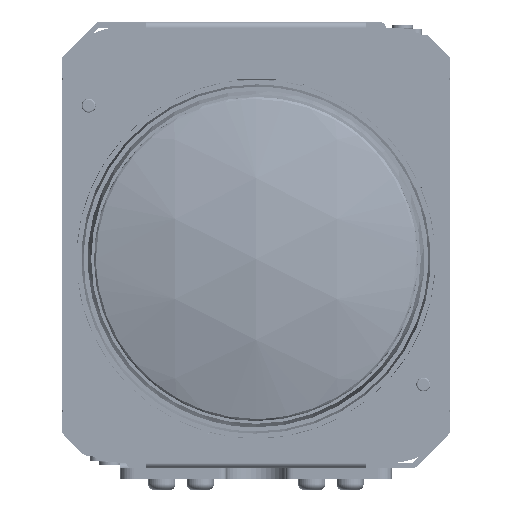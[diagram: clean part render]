
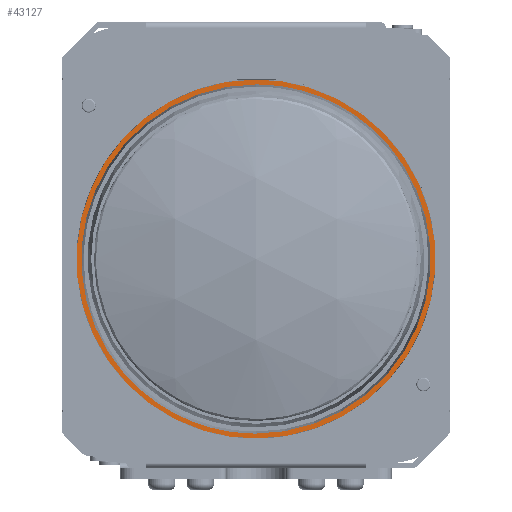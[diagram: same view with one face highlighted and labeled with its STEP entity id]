
A CAD part, left-side view. The second image highlights one B-rep face of the part: STEP entity #43127.
In plain terms, the highlighted planar face has unit normal (-1, 0, 0).
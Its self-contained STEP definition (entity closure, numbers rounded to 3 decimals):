
#43127 = ADVANCED_FACE( '', ( #86649, #86650 ), #86651, .T. );
#86649 = FACE_BOUND( '', #138583, .T. );
#86650 = FACE_OUTER_BOUND( '', #138584, .T. );
#86651 = PLANE( '', #138585 );
#138583 = EDGE_LOOP( '', ( #209256, #209257 ) );
#138584 = EDGE_LOOP( '', ( #209258, #209259 ) );
#138585 = AXIS2_PLACEMENT_3D( '', #209260, #209261, #209262 );
#209256 = ORIENTED_EDGE( '', *, *, #314277, .F. );
#209257 = ORIENTED_EDGE( '', *, *, #314278, .F. );
#209258 = ORIENTED_EDGE( '', *, *, #314279, .T. );
#209259 = ORIENTED_EDGE( '', *, *, #314280, .T. );
#209260 = CARTESIAN_POINT( '', ( -117.5, -26.78, -26.798 ) );
#209261 = DIRECTION( '', ( -1., 0., 0. ) );
#209262 = DIRECTION( '', ( 0., 0., 1. ) );
#314277 = EDGE_CURVE( '', #368505, #368506, #368507, .T. );
#314278 = EDGE_CURVE( '', #368506, #368505, #368508, .T. );
#314279 = EDGE_CURVE( '', #368509, #368510, #368511, .T. );
#314280 = EDGE_CURVE( '', #368510, #368509, #368512, .T. );
#368505 = VERTEX_POINT( '', #449618 );
#368506 = VERTEX_POINT( '', #449619 );
#368507 = ( BOUNDED_CURVE(  )B_SPLINE_CURVE( 3, ( #449622, #449623, #449624, #449625 ), .UNSPECIFIED., .F., .F. )B_SPLINE_CURVE_WITH_KNOTS( ( 4, 4 ), ( 0., 1. ), .UNSPECIFIED. )CURVE(  )GEOMETRIC_REPRESENTATION_ITEM(  )RATIONAL_B_SPLINE_CURVE( ( 1., 0.333, 0.333, 1. ) )REPRESENTATION_ITEM( '' ) );
#368508 = ( BOUNDED_CURVE(  )B_SPLINE_CURVE( 3, ( #449633, #449634, #449635, #449636 ), .UNSPECIFIED., .F., .F. )B_SPLINE_CURVE_WITH_KNOTS( ( 4, 4 ), ( 0., 1. ), .UNSPECIFIED. )CURVE(  )GEOMETRIC_REPRESENTATION_ITEM(  )RATIONAL_B_SPLINE_CURVE( ( 1., 0.333, 0.333, 1. ) )REPRESENTATION_ITEM( '' ) );
#368509 = VERTEX_POINT( '', #449642 );
#368510 = VERTEX_POINT( '', #449643 );
#368511 = B_SPLINE_CURVE_WITH_KNOTS( '', 2, ( #449644, #449645, #449646, #449647, #449648, #449649, #449650, #449651, #449652, #449653, #449654, #449655, #449656, #449657, #449658, #449659, #449660, #449661, #449662, #449663, #449664, #449665, #449666, #449667, #449668, #449669, #449670, #449671, #449672, #449673, #449674, #449675, #449676 ), .UNSPECIFIED., .F., .F., ( 3, 2, 2, 2, 2, 2, 2, 2, 2, 2, 2, 2, 2, 2, 2, 2, 3 ), ( 0., 0.063, 0.125, 0.188, 0.25, 0.313, 0.375, 0.438, 0.5, 0.563, 0.625, 0.688, 0.75, 0.813, 0.875, 0.938, 1. ), .UNSPECIFIED. );
#368512 = B_SPLINE_CURVE_WITH_KNOTS( '', 2, ( #449677, #449678, #449679, #449680, #449681, #449682, #449683, #449684, #449685, #449686, #449687, #449688, #449689, #449690, #449691, #449692, #449693, #449694, #449695, #449696, #449697, #449698, #449699, #449700, #449701, #449702, #449703, #449704, #449705, #449706, #449707, #449708, #449709 ), .UNSPECIFIED., .F., .F., ( 3, 2, 2, 2, 2, 2, 2, 2, 2, 2, 2, 2, 2, 2, 2, 2, 3 ), ( 0., 0.063, 0.125, 0.188, 0.25, 0.313, 0.375, 0.438, 0.5, 0.563, 0.625, 0.688, 0.75, 0.813, 0.875, 0.938, 1. ), .UNSPECIFIED. );
#449618 = CARTESIAN_POINT( '', ( -117.5, -25.05, 0. ) );
#449619 = CARTESIAN_POINT( '', ( -117.5, 25.05, 0. ) );
#449622 = CARTESIAN_POINT( '', ( -117.5, -25.05, 0. ) );
#449623 = CARTESIAN_POINT( '', ( -117.5, -25.05, 50.1 ) );
#449624 = CARTESIAN_POINT( '', ( -117.5, 25.05, 50.1 ) );
#449625 = CARTESIAN_POINT( '', ( -117.5, 25.05, 0. ) );
#449633 = CARTESIAN_POINT( '', ( -117.5, 25.05, 0. ) );
#449634 = CARTESIAN_POINT( '', ( -117.5, 25.05, -50.1 ) );
#449635 = CARTESIAN_POINT( '', ( -117.5, -25.05, -50.1 ) );
#449636 = CARTESIAN_POINT( '', ( -117.5, -25.05, 0. ) );
#449642 = CARTESIAN_POINT( '', ( -117.5, 25.75, 0. ) );
#449643 = CARTESIAN_POINT( '', ( -117.5, -25.75, 0. ) );
#449644 = CARTESIAN_POINT( '', ( -117.5, 25.75, 0. ) );
#449645 = CARTESIAN_POINT( '', ( -117.5, 25.75, -2.536 ) );
#449646 = CARTESIAN_POINT( '', ( -117.5, 25.255, -5.024 ) );
#449647 = CARTESIAN_POINT( '', ( -117.5, 24.761, -7.51 ) );
#449648 = CARTESIAN_POINT( '', ( -117.5, 23.79, -9.854 ) );
#449649 = CARTESIAN_POINT( '', ( -117.5, 22.82, -12.197 ) );
#449650 = CARTESIAN_POINT( '', ( -117.5, 21.41, -14.306 ) );
#449651 = CARTESIAN_POINT( '', ( -117.5, 20.002, -16.414 ) );
#449652 = CARTESIAN_POINT( '', ( -117.5, 18.208, -18.208 ) );
#449653 = CARTESIAN_POINT( '', ( -117.5, 16.415, -20.001 ) );
#449654 = CARTESIAN_POINT( '', ( -117.5, 14.306, -21.41 ) );
#449655 = CARTESIAN_POINT( '', ( -117.5, 12.198, -22.819 ) );
#449656 = CARTESIAN_POINT( '', ( -117.5, 9.854, -23.79 ) );
#449657 = CARTESIAN_POINT( '', ( -117.5, 7.512, -24.76 ) );
#449658 = CARTESIAN_POINT( '', ( -117.5, 5.024, -25.255 ) );
#449659 = CARTESIAN_POINT( '', ( -117.5, 2.537, -25.75 ) );
#449660 = CARTESIAN_POINT( '', ( -117.5, 0., -25.75 ) );
#449661 = CARTESIAN_POINT( '', ( -117.5, -2.535, -25.75 ) );
#449662 = CARTESIAN_POINT( '', ( -117.5, -5.024, -25.255 ) );
#449663 = CARTESIAN_POINT( '', ( -117.5, -7.51, -24.761 ) );
#449664 = CARTESIAN_POINT( '', ( -117.5, -9.854, -23.79 ) );
#449665 = CARTESIAN_POINT( '', ( -117.5, -12.197, -22.82 ) );
#449666 = CARTESIAN_POINT( '', ( -117.5, -14.306, -21.41 ) );
#449667 = CARTESIAN_POINT( '', ( -117.5, -16.414, -20.002 ) );
#449668 = CARTESIAN_POINT( '', ( -117.5, -18.208, -18.208 ) );
#449669 = CARTESIAN_POINT( '', ( -117.5, -20.001, -16.415 ) );
#449670 = CARTESIAN_POINT( '', ( -117.5, -21.41, -14.306 ) );
#449671 = CARTESIAN_POINT( '', ( -117.5, -22.819, -12.198 ) );
#449672 = CARTESIAN_POINT( '', ( -117.5, -23.79, -9.854 ) );
#449673 = CARTESIAN_POINT( '', ( -117.5, -24.76, -7.512 ) );
#449674 = CARTESIAN_POINT( '', ( -117.5, -25.255, -5.024 ) );
#449675 = CARTESIAN_POINT( '', ( -117.5, -25.75, -2.536 ) );
#449676 = CARTESIAN_POINT( '', ( -117.5, -25.75, 0. ) );
#449677 = CARTESIAN_POINT( '', ( -117.5, -25.75, 0. ) );
#449678 = CARTESIAN_POINT( '', ( -117.5, -25.75, 2.536 ) );
#449679 = CARTESIAN_POINT( '', ( -117.5, -25.255, 5.024 ) );
#449680 = CARTESIAN_POINT( '', ( -117.5, -24.761, 7.51 ) );
#449681 = CARTESIAN_POINT( '', ( -117.5, -23.79, 9.854 ) );
#449682 = CARTESIAN_POINT( '', ( -117.5, -22.82, 12.197 ) );
#449683 = CARTESIAN_POINT( '', ( -117.5, -21.41, 14.306 ) );
#449684 = CARTESIAN_POINT( '', ( -117.5, -20.002, 16.414 ) );
#449685 = CARTESIAN_POINT( '', ( -117.5, -18.208, 18.208 ) );
#449686 = CARTESIAN_POINT( '', ( -117.5, -16.415, 20.001 ) );
#449687 = CARTESIAN_POINT( '', ( -117.5, -14.306, 21.41 ) );
#449688 = CARTESIAN_POINT( '', ( -117.5, -12.198, 22.819 ) );
#449689 = CARTESIAN_POINT( '', ( -117.5, -9.854, 23.79 ) );
#449690 = CARTESIAN_POINT( '', ( -117.5, -7.512, 24.76 ) );
#449691 = CARTESIAN_POINT( '', ( -117.5, -5.024, 25.255 ) );
#449692 = CARTESIAN_POINT( '', ( -117.5, -2.537, 25.75 ) );
#449693 = CARTESIAN_POINT( '', ( -117.5, 0., 25.75 ) );
#449694 = CARTESIAN_POINT( '', ( -117.5, 2.535, 25.75 ) );
#449695 = CARTESIAN_POINT( '', ( -117.5, 5.024, 25.255 ) );
#449696 = CARTESIAN_POINT( '', ( -117.5, 7.51, 24.761 ) );
#449697 = CARTESIAN_POINT( '', ( -117.5, 9.854, 23.79 ) );
#449698 = CARTESIAN_POINT( '', ( -117.5, 12.197, 22.82 ) );
#449699 = CARTESIAN_POINT( '', ( -117.5, 14.306, 21.41 ) );
#449700 = CARTESIAN_POINT( '', ( -117.5, 16.414, 20.002 ) );
#449701 = CARTESIAN_POINT( '', ( -117.5, 18.208, 18.208 ) );
#449702 = CARTESIAN_POINT( '', ( -117.5, 20.001, 16.415 ) );
#449703 = CARTESIAN_POINT( '', ( -117.5, 21.41, 14.306 ) );
#449704 = CARTESIAN_POINT( '', ( -117.5, 22.819, 12.198 ) );
#449705 = CARTESIAN_POINT( '', ( -117.5, 23.79, 9.854 ) );
#449706 = CARTESIAN_POINT( '', ( -117.5, 24.76, 7.512 ) );
#449707 = CARTESIAN_POINT( '', ( -117.5, 25.255, 5.024 ) );
#449708 = CARTESIAN_POINT( '', ( -117.5, 25.75, 2.536 ) );
#449709 = CARTESIAN_POINT( '', ( -117.5, 25.75, 0. ) );
